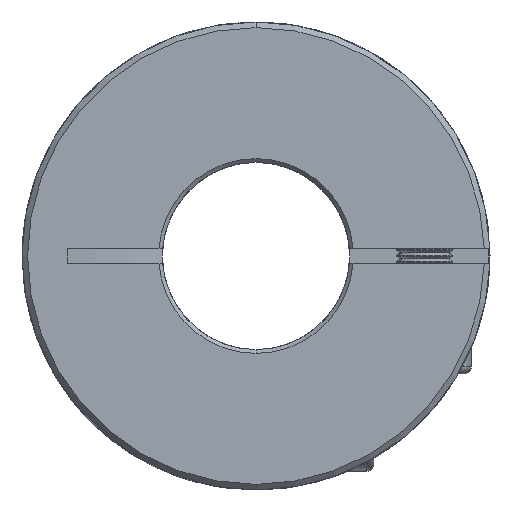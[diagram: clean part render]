
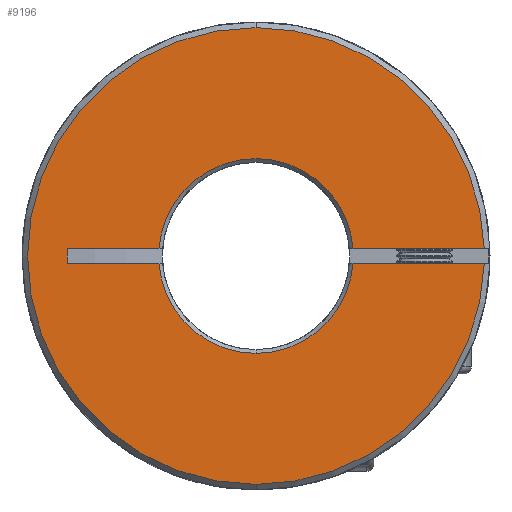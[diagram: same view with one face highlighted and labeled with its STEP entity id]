
A CAD part, front view. The second image highlights one B-rep face of the part: STEP entity #9196.
In plain terms, the highlighted planar face has unit normal (0, -1, 0).
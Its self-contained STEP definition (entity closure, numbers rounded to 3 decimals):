
#140 = DIRECTION ( 'NONE',  ( 0., 1., 0. ) ) ;
#470 = CARTESIAN_POINT ( 'NONE',  ( 0., 0., 0. ) ) ;
#801 = DIRECTION ( 'NONE',  ( 0., 0., 1. ) ) ;
#869 = DIRECTION ( 'NONE',  ( 0., 1., 0. ) ) ;
#1124 = LINE ( 'NONE', #12152, #17336 ) ;
#1864 = EDGE_CURVE ( 'NONE', #15208, #2619, #9839, .T. ) ;
#1917 = CARTESIAN_POINT ( 'NONE',  ( -50., 0., -0.75 ) ) ;
#1940 = EDGE_CURVE ( 'NONE', #6836, #13364, #15956, .T. ) ;
#1956 = DIRECTION ( 'NONE',  ( 0., 0., 1. ) ) ;
#2250 = FACE_OUTER_BOUND ( 'NONE', #7431, .T. ) ;
#2490 = VECTOR ( 'NONE', #3579, 1000. ) ;
#2619 = VERTEX_POINT ( 'NONE', #5989 ) ;
#2911 = AXIS2_PLACEMENT_3D ( 'NONE', #14120, #869, #10294 ) ;
#3143 = CARTESIAN_POINT ( 'NONE',  ( 0., 0., 24.4 ) ) ;
#3579 = DIRECTION ( 'NONE',  ( 1., 0., 0. ) ) ;
#3810 = AXIS2_PLACEMENT_3D ( 'NONE', #16796, #8741, #801 ) ;
#3836 = ORIENTED_EDGE ( 'NONE', *, *, #14276, .T. ) ;
#3971 = AXIS2_PLACEMENT_3D ( 'NONE', #9989, #8661, #1956 ) ;
#4577 = CARTESIAN_POINT ( 'NONE',  ( -20.149, 0., 0.75 ) ) ;
#4606 = PLANE ( 'NONE',  #3971 ) ;
#4860 = CARTESIAN_POINT ( 'NONE',  ( 0., 0., 0. ) ) ;
#4890 = CIRCLE ( 'NONE', #11540, 24.4 ) ;
#4915 = CARTESIAN_POINT ( 'NONE',  ( 0., 0., -10.4 ) ) ;
#5072 = VERTEX_POINT ( 'NONE', #10033 ) ;
#5542 = VERTEX_POINT ( 'NONE', #4915 ) ;
#5608 = DIRECTION ( 'NONE',  ( 0., 0., 1. ) ) ;
#5717 = AXIS2_PLACEMENT_3D ( 'NONE', #9487, #140, #5608 ) ;
#5989 = CARTESIAN_POINT ( 'NONE',  ( 24.388, 0., -0.75 ) ) ;
#6085 = EDGE_CURVE ( 'NONE', #13718, #6836, #11139, .T. ) ;
#6189 = AXIS2_PLACEMENT_3D ( 'NONE', #17218, #9168, #9446 ) ;
#6553 = CARTESIAN_POINT ( 'NONE',  ( -10.373, 0., 0.75 ) ) ;
#6836 = VERTEX_POINT ( 'NONE', #3143 ) ;
#7082 = ORIENTED_EDGE ( 'NONE', *, *, #10194, .T. ) ;
#7431 = EDGE_LOOP ( 'NONE', ( #11633, #15058, #8841, #15992, #7082, #3836, #11158, #11789, #12629, #8196, #13938 ) ) ;
#7499 = CARTESIAN_POINT ( 'NONE',  ( -20.149, 0., -0.75 ) ) ;
#7529 = DIRECTION ( 'NONE',  ( 0., 0., 1. ) ) ;
#7658 = VERTEX_POINT ( 'NONE', #12947 ) ;
#8075 = CARTESIAN_POINT ( 'NONE',  ( 24.388, 0., 0.75 ) ) ;
#8196 = ORIENTED_EDGE ( 'NONE', *, *, #1940, .T. ) ;
#8249 = CARTESIAN_POINT ( 'NONE',  ( 10.373, 0., -0.75 ) ) ;
#8570 = DIRECTION ( 'NONE',  ( 1., 0., 0. ) ) ;
#8661 = DIRECTION ( 'NONE',  ( 0., 1., 0. ) ) ;
#8741 = DIRECTION ( 'NONE',  ( 0., -1., 0. ) ) ;
#8841 = ORIENTED_EDGE ( 'NONE', *, *, #16169, .T. ) ;
#8851 = VECTOR ( 'NONE', #13381, 1000. ) ;
#8932 = DIRECTION ( 'NONE',  ( 0., 0., 1. ) ) ;
#9168 = DIRECTION ( 'NONE',  ( 0., 1., 0. ) ) ;
#9196 = ADVANCED_FACE ( 'NONE', ( #2250 ), #4606, .F. ) ;
#9288 = CARTESIAN_POINT ( 'NONE',  ( -50., 0., 0.75 ) ) ;
#9446 = DIRECTION ( 'NONE',  ( 0., 0., 1. ) ) ;
#9487 = CARTESIAN_POINT ( 'NONE',  ( 0., 0., 0. ) ) ;
#9839 = LINE ( 'NONE', #1917, #2490 ) ;
#9910 = DIRECTION ( 'NONE',  ( 0., -1., 0. ) ) ;
#9989 = CARTESIAN_POINT ( 'NONE',  ( -50., 0., 32.858 ) ) ;
#10033 = CARTESIAN_POINT ( 'NONE',  ( -10.373, 0., -0.75 ) ) ;
#10194 = EDGE_CURVE ( 'NONE', #16520, #17477, #10383, .T. ) ;
#10294 = DIRECTION ( 'NONE',  ( 0., 0., 1. ) ) ;
#10383 = LINE ( 'NONE', #15589, #13121 ) ;
#11139 = CIRCLE ( 'NONE', #11831, 24.4 ) ;
#11158 = ORIENTED_EDGE ( 'NONE', *, *, #12822, .T. ) ;
#11184 = CARTESIAN_POINT ( 'NONE',  ( -50., 0., -0.75 ) ) ;
#11286 = LINE ( 'NONE', #11184, #16352 ) ;
#11343 = CIRCLE ( 'NONE', #2911, 10.4 ) ;
#11540 = AXIS2_PLACEMENT_3D ( 'NONE', #470, #9910, #13671 ) ;
#11633 = ORIENTED_EDGE ( 'NONE', *, *, #1864, .F. ) ;
#11789 = ORIENTED_EDGE ( 'NONE', *, *, #12536, .T. ) ;
#11831 = AXIS2_PLACEMENT_3D ( 'NONE', #4860, #15447, #8932 ) ;
#12152 = CARTESIAN_POINT ( 'NONE',  ( -50., 0., 0.75 ) ) ;
#12536 = EDGE_CURVE ( 'NONE', #7658, #13718, #1124, .T. ) ;
#12629 = ORIENTED_EDGE ( 'NONE', *, *, #6085, .T. ) ;
#12728 = EDGE_CURVE ( 'NONE', #13364, #2619, #4890, .T. ) ;
#12746 = CIRCLE ( 'NONE', #6189, 10.4 ) ;
#12822 = EDGE_CURVE ( 'NONE', #16834, #7658, #15417, .T. ) ;
#12947 = CARTESIAN_POINT ( 'NONE',  ( 10.373, 0., 0.75 ) ) ;
#13121 = VECTOR ( 'NONE', #7529, 1000. ) ;
#13364 = VERTEX_POINT ( 'NONE', #14234 ) ;
#13381 = DIRECTION ( 'NONE',  ( 1., 0., 0. ) ) ;
#13671 = DIRECTION ( 'NONE',  ( 0., 0., 1. ) ) ;
#13718 = VERTEX_POINT ( 'NONE', #8075 ) ;
#13938 = ORIENTED_EDGE ( 'NONE', *, *, #12728, .T. ) ;
#14120 = CARTESIAN_POINT ( 'NONE',  ( 0., 0., 0. ) ) ;
#14234 = CARTESIAN_POINT ( 'NONE',  ( 0., 0., -24.4 ) ) ;
#14276 = EDGE_CURVE ( 'NONE', #17477, #16834, #15988, .T. ) ;
#14434 = EDGE_CURVE ( 'NONE', #15208, #5542, #11343, .T. ) ;
#15058 = ORIENTED_EDGE ( 'NONE', *, *, #14434, .T. ) ;
#15208 = VERTEX_POINT ( 'NONE', #8249 ) ;
#15417 = CIRCLE ( 'NONE', #5717, 10.4 ) ;
#15447 = DIRECTION ( 'NONE',  ( 0., -1., 0. ) ) ;
#15589 = CARTESIAN_POINT ( 'NONE',  ( -20.149, 0., -0.75 ) ) ;
#15956 = CIRCLE ( 'NONE', #3810, 24.4 ) ;
#15988 = LINE ( 'NONE', #9288, #8851 ) ;
#15992 = ORIENTED_EDGE ( 'NONE', *, *, #16407, .F. ) ;
#16169 = EDGE_CURVE ( 'NONE', #5542, #5072, #12746, .T. ) ;
#16218 = DIRECTION ( 'NONE',  ( 1., 0., 0. ) ) ;
#16352 = VECTOR ( 'NONE', #8570, 1000. ) ;
#16407 = EDGE_CURVE ( 'NONE', #16520, #5072, #11286, .T. ) ;
#16520 = VERTEX_POINT ( 'NONE', #7499 ) ;
#16796 = CARTESIAN_POINT ( 'NONE',  ( 0., 0., 0. ) ) ;
#16834 = VERTEX_POINT ( 'NONE', #6553 ) ;
#17218 = CARTESIAN_POINT ( 'NONE',  ( 0., 0., 0. ) ) ;
#17336 = VECTOR ( 'NONE', #16218, 1000. ) ;
#17477 = VERTEX_POINT ( 'NONE', #4577 ) ;
